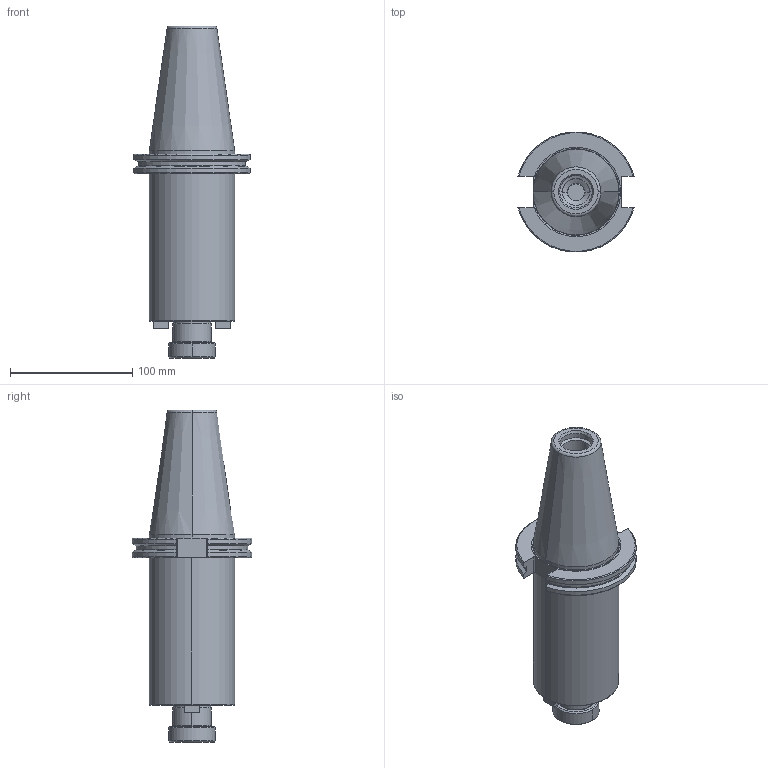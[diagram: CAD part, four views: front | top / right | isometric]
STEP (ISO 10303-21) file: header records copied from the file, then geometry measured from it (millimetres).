
FILE_DESCRIPTION (( 'STEP AP214' ), '1' );
FILE_NAME ('RC5SM12505500.STEP', '2019-02-08T19:16:58', ( '' ), ( '' ), 'SwSTEP 2.0', 'SolidWorks 2019', '' );
FILE_SCHEMA (( 'AUTOMOTIVE_DESIGN' ));
Length unit declared in the file: inch
Products named in the file (1): RC5SM12505500
Bounding box: 94.95 x 98.05 x 271.41 mm (x, y, z)
Volume: 770775.8 mm3; surface area: 85847.1 mm2
Topology: 1 solids, 4 shells, 245 faces, 642 edges, 394 vertices
Faces by surface type: plane 94, cone 69, cylinder 56, torus 26
Entity records: 9814 total; most frequent: CARTESIAN_POINT 2030, DIRECTION 1269, ORIENTED_EDGE 1260, EDGE_CURVE 630, AXIS2_PLACEMENT_3D 491, VERTEX_POINT 394, LINE 287, VECTOR 287
